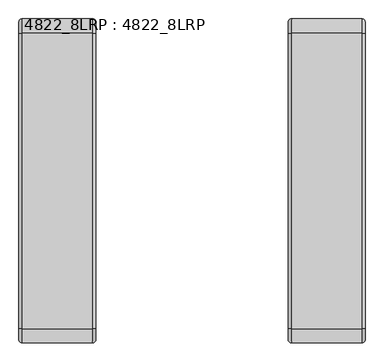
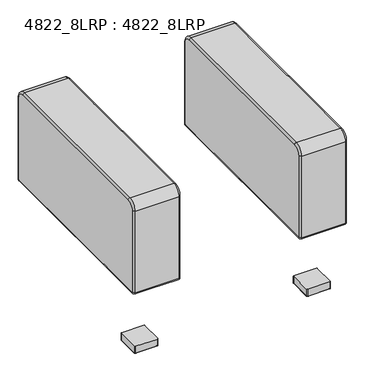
"""IFC4 building model written with IfcOpenShell, lengths in millimetres: furniture geometry, 4822_8LRP : 4822_8LRP."""

from ifc_helpers import new_model, si_unit, point, frame, frame_2d, origin, place, context, project, spatial, polyline, circle_curve, ellipse_curve, trimmed, segment, composite_curve, outline, extrude, source, transform, mapped, element, save
from ifc_brep_helpers import plane_surface, cylinder_surface, revolved_surface, advanced_brep


def furniture_4822_8lrp_4822_8lrp_ecd76cde(model_context):
    return source(origin(), model_context, "Body", "SolidModel", [
        advanced_brep(
        [(-254.0, -8.89, 698.8175), (-254.0, -38.1, 728.0275), (-254.0, -819.15, 728.0275), (-254.0, -848.36, 698.8175), (-254.0, -848.36, 330.4403326), (-254.0, -847.8021674, 329.8825), (-254.0, -9.4347305, 329.8825), (-254.0, -8.89, 330.4272305), (-457.2, -38.1, 728.0275), (-457.2, -8.89, 698.8175), (-457.2, -8.89, 330.4272305), (-457.2, -9.4347305, 329.8825), (-457.2, -847.8021674, 329.8825), (-457.2, -848.36, 330.4403326), (-457.2, -848.36, 698.8175), (-457.2, -819.15, 728.0275), (-448.31, -38.1, 736.9175), (-448.31, -819.15, 736.9175), (-262.89, -819.15, 736.9175), (-262.89, -38.1, 736.9175), (-448.31, -857.25, 698.8175), (-262.89, -857.25, 698.8175), (-448.31, -857.25, 330.4403326), (-262.89, -857.25, 330.4403326), (-448.31, -847.8021674, 320.9925), (-262.89, -847.8021674, 320.9925), (-448.31, -9.4347305, 320.9925), (-262.89, -9.4347305, 320.9925), (-400.05, -187.325, 320.9925), (-400.05, -161.925, 320.9925), (-400.05, -695.325, 320.9925), (-400.05, -669.925, 320.9925), (-448.31, 0.0, 330.4272305), (-262.89, 0.0, 330.4272305), (-448.31, 0.0, 698.8175), (-262.89, 0.0, 698.8175), (-400.05, -161.925, 333.6925), (-400.05, -187.325, 333.6925), (-400.05, -669.925, 333.6925), (-400.05, -695.325, 333.6925)],
        [
            (0, 1, circle_curve(frame((-254.0, -38.1, 698.8175), z_axis=(1.0, 0.0, 0.0), x_axis=(0.0, 0.0, 1.0)), 29.21)),
            (1, 2),
            (2, 3, circle_curve(frame((-254.0, -819.15, 698.8175), z_axis=(1.0, 0.0, 0.0), x_axis=(0.0, -1.0, 0.0)), 29.21)),
            (3, 4),
            (4, 5, circle_curve(frame((-254.0, -847.8021674, 330.4403326), z_axis=(1.0, 0.0, 0.0), x_axis=(0.0, 0.0, -1.0)), 0.5578326)),
            (5, 6),
            (6, 7, circle_curve(frame((-254.0, -9.4347305, 330.4272305), z_axis=(1.0, 0.0, 0.0), x_axis=(0.0, 1.0, 0.0)), 0.5447305)),
            (7, 0),
            (8, 9, circle_curve(frame((-457.2, -38.1, 698.8175), z_axis=(-1.0, 0.0, 0.0), x_axis=(0.0, 0.0, 1.0)), 29.21)),
            (9, 10),
            (10, 11, circle_curve(frame((-457.2, -9.4347305, 330.4272305), z_axis=(-1.0, 0.0, 0.0), x_axis=(0.0, 1.0, 0.0)), 0.5447305)),
            (11, 12),
            (12, 13, circle_curve(frame((-457.2, -847.8021674, 330.4403326), z_axis=(-1.0, 0.0, 0.0), x_axis=(0.0, 0.0, -1.0)), 0.5578326)),
            (13, 14),
            (14, 15, circle_curve(frame((-457.2, -819.15, 698.8175), z_axis=(-1.0, 0.0, 0.0), x_axis=(0.0, -1.0, 0.0)), 29.21)),
            (15, 8),
            (16, 17),
            (17, 18),
            (18, 19),
            (19, 16),
            (17, 20, circle_curve(frame((-448.31, -819.15, 698.8175), z_axis=(1.0, 0.0, 0.0), x_axis=(0.0, -1.0, 0.0)), 38.1)),
            (20, 21),
            (21, 18, circle_curve(frame((-262.89, -819.15, 698.8175), z_axis=(-1.0, 0.0, 0.0), x_axis=(0.0, -1.0, 0.0)), 38.1)),
            (20, 22),
            (22, 23),
            (23, 21),
            (22, 24, circle_curve(frame((-448.31, -847.8021674, 330.4403326), z_axis=(1.0, 0.0, 0.0), x_axis=(0.0, -1.0, 0.0)), 9.4478326)),
            (24, 25),
            (25, 23, circle_curve(frame((-262.89, -847.8021674, 330.4403326), z_axis=(-1.0, 0.0, 0.0), x_axis=(0.0, -1.0, 0.0)), 9.4478326)),
            (24, 26),
            (26, 27),
            (27, 25),
            (28, 29, circle_curve(frame((-400.05, -174.625, 320.9925), z_axis=(0.0, 0.0, 1.0), x_axis=(-1.0, 0.0, 0.0)), 12.7)),
            (29, 28),
            (30, 31, circle_curve(frame((-400.05, -682.625, 320.9925), z_axis=(0.0, 0.0, 1.0), x_axis=(-1.0, 0.0, 0.0)), 12.7)),
            (31, 30),
            (26, 32, circle_curve(frame((-448.31, -9.4347305, 330.4272305), z_axis=(1.0, 0.0, 0.0), x_axis=(0.0, -1.0, 0.0)), 9.4347305)),
            (32, 33),
            (33, 27, circle_curve(frame((-262.89, -9.4347305, 330.4272305), z_axis=(-1.0, 0.0, 0.0), x_axis=(0.0, -1.0, 0.0)), 9.4347305)),
            (32, 34),
            (34, 35),
            (35, 33),
            (34, 16, circle_curve(frame((-448.31, -38.1, 698.8175), z_axis=(1.0, 0.0, 0.0), x_axis=(0.0, -1.0, 0.0)), 38.1)),
            (19, 35, circle_curve(frame((-262.89, -38.1, 698.8175), z_axis=(-1.0, 0.0, 0.0), x_axis=(0.0, -1.0, 0.0)), 38.1)),
            (34, 9, circle_curve(frame((-448.31, -8.89, 698.8175), z_axis=(0.0, 0.0, 1.0), x_axis=(1.0, 0.0, 0.0)), 8.89)),
            (8, 16, circle_curve(frame((-448.31, -38.1, 728.0275), z_axis=(0.0, 1.0, 0.0), x_axis=(1.0, 0.0, 0.0)), 8.89)),
            (32, 10, circle_curve(frame((-448.31, -8.89, 330.4272305), z_axis=(0.0, 0.0, 1.0), x_axis=(1.0, 0.0, 0.0)), 8.89)),
            (26, 11, circle_curve(frame((-448.31, -9.4347305, 329.8825), z_axis=(0.0, 1.0, 0.0), x_axis=(1.0, 0.0, 0.0)), 8.89)),
            (24, 12, circle_curve(frame((-448.31, -847.8021674, 329.8825), z_axis=(0.0, 1.0, 0.0), x_axis=(1.0, 0.0, 0.0)), 8.89)),
            (22, 13, circle_curve(frame((-448.31, -848.36, 330.4403326), z_axis=(0.0, 0.0, -1.0), x_axis=(1.0, 0.0, 0.0)), 8.89)),
            (20, 14, circle_curve(frame((-448.31, -848.36, 698.8175), z_axis=(0.0, 0.0, -1.0), x_axis=(1.0, 0.0, 0.0)), 8.89)),
            (17, 15, circle_curve(frame((-448.31, -819.15, 728.0275), z_axis=(0.0, -1.0, 0.0), x_axis=(1.0, 0.0, 0.0)), 8.89)),
            (0, 35, circle_curve(frame((-262.89, -8.89, 698.8175), z_axis=(0.0, 0.0, 1.0), x_axis=(-1.0, 0.0, 0.0)), 8.89)),
            (19, 1, circle_curve(frame((-262.89, -38.1, 728.0275), z_axis=(0.0, 1.0, 0.0), x_axis=(-1.0, 0.0, 0.0)), 8.89)),
            (7, 33, circle_curve(frame((-262.89, -8.89, 330.4272305), z_axis=(0.0, 0.0, 1.0), x_axis=(-1.0, 0.0, 0.0)), 8.89)),
            (6, 27, circle_curve(frame((-262.89, -9.4347305, 329.8825), z_axis=(0.0, 1.0, 0.0), x_axis=(-1.0, 0.0, 0.0)), 8.89)),
            (5, 25, circle_curve(frame((-262.89, -847.8021674, 329.8825), z_axis=(0.0, 1.0, 0.0), x_axis=(-1.0, 0.0, 0.0)), 8.89)),
            (4, 23, circle_curve(frame((-262.89, -848.36, 330.4403326), z_axis=(0.0, 0.0, -1.0), x_axis=(-1.0, 0.0, 0.0)), 8.89)),
            (3, 21, circle_curve(frame((-262.89, -848.36, 698.8175), z_axis=(0.0, 0.0, -1.0), x_axis=(-1.0, 0.0, 0.0)), 8.89)),
            (2, 18, circle_curve(frame((-262.89, -819.15, 728.0275), z_axis=(0.0, -1.0, 0.0), x_axis=(-1.0, 0.0, 0.0)), 8.89)),
            (36, 37, circle_curve(frame((-400.05, -174.625, 333.6925), z_axis=(0.0, 0.0, -1.0), x_axis=(-1.0, 0.0, 0.0)), 12.7)),
            (37, 36),
            (38, 39, circle_curve(frame((-400.05, -682.625, 333.6925), z_axis=(0.0, 0.0, -1.0), x_axis=(-1.0, 0.0, 0.0)), 12.7)),
            (39, 38),
            (36, 29),
            (28, 37),
            (38, 31),
            (30, 39),
        ],
        [
            plane_surface(frame((-254.0, -819.15, 736.9175), z_axis=(1.0, 0.0, 0.0), x_axis=(0.0, -1.0, 0.0))),
            plane_surface(frame((-457.2, -819.15, 736.9175), z_axis=(-1.0, 0.0, 0.0), x_axis=(0.0, 1.0, 0.0))),
            plane_surface(frame((-254.0, -38.1, 736.9175), z_axis=(0.0, 0.0, 1.0), x_axis=(-1.0, 0.0, 0.0))),
            cylinder_surface(frame((-457.2, -819.15, 698.8175), z_axis=(1.0, 0.0, 0.0), x_axis=(0.0, -1.0, 0.0)), 38.1),
            plane_surface(frame((-254.0, -857.25, 698.8175), z_axis=(0.0, -1.0, 0.0), x_axis=(-1.0, 0.0, 0.0))),
            cylinder_surface(frame((-457.2, -847.8021674, 330.4403326), z_axis=(1.0, 0.0, 0.0), x_axis=(0.0, -1.0, 0.0)), 9.4478326),
            plane_surface(frame((-254.0, -847.8021674, 320.9925), z_axis=(0.0, 0.0, -1.0), x_axis=(-1.0, 0.0, 0.0))),
            cylinder_surface(frame((-457.2, -9.4347305, 330.4272305), z_axis=(1.0, 0.0, 0.0), x_axis=(0.0, -1.0, 0.0)), 9.4347305),
            plane_surface(frame((-254.0, 0.0, 330.4272305), z_axis=(0.0, 1.0, 0.0), x_axis=(-1.0, 0.0, 0.0))),
            cylinder_surface(frame((-457.2, -38.1, 698.8175), z_axis=(1.0, 0.0, 0.0), x_axis=(0.0, -1.0, 0.0)), 38.1),
            revolved_surface(trimmed(ellipse_curve(frame((-448.31, -38.1, 728.0275), z_axis=(0.0, -1.0, 0.0), x_axis=(1.0, 0.0, 0.0)), 8.89, 8.89), [point((-448.31, -38.1, 736.9175))], [point((-457.2, -38.1, 728.0275))], True, "CARTESIAN"), (-457.2, -38.1, 698.8175), (-1.0, 0.0, 0.0)),
            cylinder_surface(frame((-448.31, -8.89, 698.8175), z_axis=(0.0, 0.0, -1.0), x_axis=(1.0, 0.0, 0.0)), 8.89),
            revolved_surface(trimmed(ellipse_curve(frame((-448.31, -8.89, 330.4272305), z_axis=(0.0, 0.0, 1.0), x_axis=(1.0, 0.0, 0.0)), 8.89, 8.89), [point((-448.31, 0.0, 330.4272305))], [point((-457.2, -8.89, 330.4272305))], True, "CARTESIAN"), (-457.2, -9.4347305, 330.4272305), (-1.0, 0.0, 0.0)),
            cylinder_surface(frame((-448.31, -9.4347305, 329.8825), z_axis=(0.0, -1.0, 0.0), x_axis=(1.0, 0.0, 0.0)), 8.89),
            revolved_surface(trimmed(ellipse_curve(frame((-448.31, -847.8021674, 329.8825), z_axis=(0.0, 1.0, 0.0), x_axis=(1.0, 0.0, 0.0)), 8.89, 8.89), [point((-448.31, -847.8021674, 320.9925))], [point((-457.2, -847.8021674, 329.8825))], True, "CARTESIAN"), (-457.2, -847.8021674, 330.4403326), (-1.0, 0.0, 0.0)),
            cylinder_surface(frame((-448.31, -848.36, 330.4403326), z_axis=(0.0, 0.0, 1.0), x_axis=(1.0, 0.0, 0.0)), 8.89),
            revolved_surface(trimmed(ellipse_curve(frame((-448.31, -848.36, 698.8175), z_axis=(0.0, 0.0, -1.0), x_axis=(1.0, 0.0, 0.0)), 8.89, 8.89), [point((-448.31, -857.25, 698.8175))], [point((-457.2, -848.36, 698.8175))], True, "CARTESIAN"), (-457.2, -819.15, 698.8175), (-1.0, 0.0, 0.0)),
            cylinder_surface(frame((-448.31, -819.15, 728.0275), z_axis=(0.0, 1.0, 0.0), x_axis=(1.0, 0.0, 0.0)), 8.89),
            revolved_surface(trimmed(ellipse_curve(frame((-262.89, -38.1, 728.0275), z_axis=(0.0, -1.0, 0.0), x_axis=(-1.0, 0.0, 0.0)), 8.89, 8.89), [point((-254.0, -38.1, 728.0275))], [point((-262.89, -38.1, 736.9175))], True, "CARTESIAN"), (-254.0, -38.1, 698.8175), (-1.0, 0.0, 0.0)),
            cylinder_surface(frame((-262.89, -8.89, 698.8175), z_axis=(0.0, 0.0, -1.0), x_axis=(-1.0, 0.0, 0.0)), 8.89),
            revolved_surface(trimmed(ellipse_curve(frame((-262.89, -8.89, 330.4272305), z_axis=(0.0, 0.0, 1.0), x_axis=(-1.0, 0.0, 0.0)), 8.89, 8.89), [point((-254.0, -8.89, 330.4272305))], [point((-262.89, 0.0, 330.4272305))], True, "CARTESIAN"), (-254.0, -9.4347305, 330.4272305), (-1.0, 0.0, 0.0)),
            cylinder_surface(frame((-262.89, -9.4347305, 329.8825), z_axis=(0.0, -1.0, 0.0), x_axis=(-1.0, 0.0, 0.0)), 8.89),
            revolved_surface(trimmed(ellipse_curve(frame((-262.89, -847.8021674, 329.8825), z_axis=(0.0, 1.0, 0.0), x_axis=(-1.0, 0.0, 0.0)), 8.89, 8.89), [point((-254.0, -847.8021674, 329.8825))], [point((-262.89, -847.8021674, 320.9925))], True, "CARTESIAN"), (-254.0, -847.8021674, 330.4403326), (-1.0, 0.0, 0.0)),
            cylinder_surface(frame((-262.89, -848.36, 330.4403326), z_axis=(0.0, 0.0, 1.0), x_axis=(-1.0, 0.0, 0.0)), 8.89),
            revolved_surface(trimmed(ellipse_curve(frame((-262.89, -848.36, 698.8175), z_axis=(0.0, 0.0, -1.0), x_axis=(-1.0, 0.0, 0.0)), 8.89, 8.89), [point((-254.0, -848.36, 698.8175))], [point((-262.89, -857.25, 698.8175))], True, "CARTESIAN"), (-254.0, -819.15, 698.8175), (-1.0, 0.0, 0.0)),
            cylinder_surface(frame((-262.89, -819.15, 728.0275), z_axis=(0.0, 1.0, 0.0), x_axis=(-1.0, 0.0, 0.0)), 8.89),
            plane_surface(frame((-400.05, -187.325, 333.6925), z_axis=(0.0, 0.0, -1.0), x_axis=(0.0, -1.0, 0.0))),
            revolved_surface(polyline([(-412.75, -174.625, 333.6925), (-412.75, -174.625, 320.9925)]), (-400.05, -174.625, 320.9925), (0.0, 0.0, 1.0)),
            plane_surface(frame((-400.05, -161.925, 333.6925), z_axis=(1.0, 0.0, 0.0), x_axis=(0.0, 0.0, -1.0))),
            revolved_surface(polyline([(-412.75, -682.625, 333.6925), (-412.75, -682.625, 320.9925)]), (-400.05, -682.625, 9.8425), (0.0, 0.0, 1.0)),
            plane_surface(frame((-400.05, -669.925, 333.6925), z_axis=(1.0, 0.0, 0.0), x_axis=(0.0, 0.0, -1.0))),
        ],
        [
            (0, [[1, 2, 3, 4, 5, 6, 7, 8]]),
            (1, [[9, 10, 11, 12, 13, 14, 15, 16]]),
            (2, [[17, 18, 19, 20]]),
            (3, [[21, 22, 23, -18]]),
            (4, [[24, 25, 26, -22]]),
            (5, [[27, 28, 29, -25]]),
            (6, [[30, 31, 32, -28], [33, 34], [35, 36]]),
            (7, [[37, 38, 39, -31]]),
            (8, [[40, 41, 42, -38]]),
            (9, [[43, -20, 44, -41]]),
            (10, [[45, -9, 46, -43]]),
            (11, [[-45, -40, 47, -10]]),
            (12, [[-47, -37, 48, -11]]),
            (13, [[-48, -30, 49, -12]]),
            (14, [[-49, -27, 50, -13]]),
            (15, [[-50, -24, 51, -14]]),
            (16, [[-51, -21, 52, -15]]),
            (17, [[-46, -16, -52, -17]]),
            (18, [[53, -44, 54, -1]]),
            (19, [[-53, -8, 55, -42]]),
            (20, [[-55, -7, 56, -39]]),
            (21, [[-56, -6, 57, -32]]),
            (22, [[-57, -5, 58, -29]]),
            (23, [[-58, -4, 59, -26]]),
            (24, [[-59, -3, 60, -23]]),
            (25, [[-54, -19, -60, -2]]),
            (26, [[61, 62]]),
            (26, [[63, 64]]),
            (27, [[-61, 65, -33, 66]]),
            (28, [[-62, -66, -34, -65]]),
            (29, [[-63, 67, -35, 68]]),
            (30, [[-64, -68, -36, -67]]),
        ],
    ),
        advanced_brep(
        [(457.2, -8.89, 698.8175), (457.2, -38.1, 728.0275), (457.2, -819.15, 728.0275), (457.2, -848.36, 698.8175), (457.2, -848.36, 330.4403326), (457.2, -847.8021674, 329.8825), (457.2, -9.4347305, 329.8825), (457.2, -8.89, 330.4272305), (254.0, -38.1, 728.0275), (254.0, -8.89, 698.8175), (254.0, -8.89, 330.4272305), (254.0, -9.4347305, 329.8825), (254.0, -847.8021674, 329.8825), (254.0, -848.36, 330.4403326), (254.0, -848.36, 698.8175), (254.0, -819.15, 728.0275), (262.89, -38.1, 736.9175), (262.89, -819.15, 736.9175), (448.31, -819.15, 736.9175), (448.31, -38.1, 736.9175), (262.89, -857.25, 698.8175), (448.31, -857.25, 698.8175), (262.89, -857.25, 330.4403326), (448.31, -857.25, 330.4403326), (262.89, -847.8021674, 320.9925), (448.31, -847.8021674, 320.9925), (262.89, -9.4347305, 320.9925), (448.31, -9.4347305, 320.9925), (400.05, -161.925, 320.9925), (400.05, -187.325, 320.9925), (400.05, -669.925, 320.9925), (400.05, -695.325, 320.9925), (262.89, 0.0, 330.4272305), (448.31, 0.0, 330.4272305), (262.89, 0.0, 698.8175), (448.31, 0.0, 698.8175), (400.05, -161.925, 333.6925), (400.05, -187.325, 333.6925), (400.05, -669.925, 333.6925), (400.05, -695.325, 333.6925)],
        [
            (0, 1, circle_curve(frame((457.2, -38.1, 698.8175), z_axis=(1.0, 0.0, 0.0), x_axis=(0.0, 0.0, 1.0)), 29.21)),
            (1, 2),
            (2, 3, circle_curve(frame((457.2, -819.15, 698.8175), z_axis=(1.0, 0.0, 0.0), x_axis=(0.0, -1.0, 0.0)), 29.21)),
            (3, 4),
            (4, 5, circle_curve(frame((457.2, -847.8021674, 330.4403326), z_axis=(1.0, 0.0, 0.0), x_axis=(0.0, 0.0, -1.0)), 0.5578326)),
            (5, 6),
            (6, 7, circle_curve(frame((457.2, -9.4347305, 330.4272305), z_axis=(1.0, 0.0, 0.0), x_axis=(0.0, 1.0, 0.0)), 0.5447305)),
            (7, 0),
            (8, 9, circle_curve(frame((254.0, -38.1, 698.8175), z_axis=(-1.0, 0.0, 0.0), x_axis=(0.0, 0.0, 1.0)), 29.21)),
            (9, 10),
            (10, 11, circle_curve(frame((254.0, -9.4347305, 330.4272305), z_axis=(-1.0, 0.0, 0.0), x_axis=(0.0, 1.0, 0.0)), 0.5447305)),
            (11, 12),
            (12, 13, circle_curve(frame((254.0, -847.8021674, 330.4403326), z_axis=(-1.0, 0.0, 0.0), x_axis=(0.0, 0.0, -1.0)), 0.5578326)),
            (13, 14),
            (14, 15, circle_curve(frame((254.0, -819.15, 698.8175), z_axis=(-1.0, 0.0, 0.0), x_axis=(0.0, -1.0, 0.0)), 29.21)),
            (15, 8),
            (16, 17),
            (17, 18),
            (18, 19),
            (19, 16),
            (17, 20, circle_curve(frame((262.89, -819.15, 698.8175), z_axis=(1.0, 0.0, 0.0), x_axis=(0.0, -1.0, 0.0)), 38.1)),
            (20, 21),
            (21, 18, circle_curve(frame((448.31, -819.15, 698.8175), z_axis=(-1.0, 0.0, 0.0), x_axis=(0.0, -1.0, 0.0)), 38.1)),
            (20, 22),
            (22, 23),
            (23, 21),
            (22, 24, circle_curve(frame((262.89, -847.8021674, 330.4403326), z_axis=(1.0, 0.0, 0.0), x_axis=(0.0, -1.0, 0.0)), 9.4478326)),
            (24, 25),
            (25, 23, circle_curve(frame((448.31, -847.8021674, 330.4403326), z_axis=(-1.0, 0.0, 0.0), x_axis=(0.0, -1.0, 0.0)), 9.4478326)),
            (24, 26),
            (26, 27),
            (27, 25),
            (28, 29, circle_curve(frame((400.05, -174.625, 320.9925), z_axis=(0.0, 0.0, 1.0), x_axis=(1.0, 0.0, 0.0)), 12.7)),
            (29, 28),
            (30, 31, circle_curve(frame((400.05, -682.625, 320.9925), z_axis=(0.0, 0.0, 1.0), x_axis=(1.0, 0.0, 0.0)), 12.7)),
            (31, 30),
            (26, 32, circle_curve(frame((262.89, -9.4347305, 330.4272305), z_axis=(1.0, 0.0, 0.0), x_axis=(0.0, -1.0, 0.0)), 9.4347305)),
            (32, 33),
            (33, 27, circle_curve(frame((448.31, -9.4347305, 330.4272305), z_axis=(-1.0, 0.0, 0.0), x_axis=(0.0, -1.0, 0.0)), 9.4347305)),
            (32, 34),
            (34, 35),
            (35, 33),
            (34, 16, circle_curve(frame((262.89, -38.1, 698.8175), z_axis=(1.0, 0.0, 0.0), x_axis=(0.0, -1.0, 0.0)), 38.1)),
            (19, 35, circle_curve(frame((448.31, -38.1, 698.8175), z_axis=(-1.0, 0.0, 0.0), x_axis=(0.0, -1.0, 0.0)), 38.1)),
            (34, 9, circle_curve(frame((262.89, -8.89, 698.8175), z_axis=(0.0, 0.0, 1.0), x_axis=(1.0, 0.0, 0.0)), 8.89)),
            (8, 16, circle_curve(frame((262.89, -38.1, 728.0275), z_axis=(0.0, 1.0, 0.0), x_axis=(1.0, 0.0, 0.0)), 8.89)),
            (32, 10, circle_curve(frame((262.89, -8.89, 330.4272305), z_axis=(0.0, 0.0, 1.0), x_axis=(1.0, 0.0, 0.0)), 8.89)),
            (26, 11, circle_curve(frame((262.89, -9.4347305, 329.8825), z_axis=(0.0, 1.0, 0.0), x_axis=(1.0, 0.0, 0.0)), 8.89)),
            (24, 12, circle_curve(frame((262.89, -847.8021674, 329.8825), z_axis=(0.0, 1.0, 0.0), x_axis=(1.0, 0.0, 0.0)), 8.89)),
            (22, 13, circle_curve(frame((262.89, -848.36, 330.4403326), z_axis=(0.0, 0.0, -1.0), x_axis=(1.0, 0.0, 0.0)), 8.89)),
            (20, 14, circle_curve(frame((262.89, -848.36, 698.8175), z_axis=(0.0, 0.0, -1.0), x_axis=(1.0, 0.0, 0.0)), 8.89)),
            (17, 15, circle_curve(frame((262.89, -819.15, 728.0275), z_axis=(0.0, -1.0, 0.0), x_axis=(1.0, 0.0, 0.0)), 8.89)),
            (0, 35, circle_curve(frame((448.31, -8.89, 698.8175), z_axis=(0.0, 0.0, 1.0), x_axis=(-1.0, 0.0, 0.0)), 8.89)),
            (19, 1, circle_curve(frame((448.31, -38.1, 728.0275), z_axis=(0.0, 1.0, 0.0), x_axis=(-1.0, 0.0, 0.0)), 8.89)),
            (7, 33, circle_curve(frame((448.31, -8.89, 330.4272305), z_axis=(0.0, 0.0, 1.0), x_axis=(-1.0, 0.0, 0.0)), 8.89)),
            (6, 27, circle_curve(frame((448.31, -9.4347305, 329.8825), z_axis=(0.0, 1.0, 0.0), x_axis=(-1.0, 0.0, 0.0)), 8.89)),
            (5, 25, circle_curve(frame((448.31, -847.8021674, 329.8825), z_axis=(0.0, 1.0, 0.0), x_axis=(-1.0, 0.0, 0.0)), 8.89)),
            (4, 23, circle_curve(frame((448.31, -848.36, 330.4403326), z_axis=(0.0, 0.0, -1.0), x_axis=(-1.0, 0.0, 0.0)), 8.89)),
            (3, 21, circle_curve(frame((448.31, -848.36, 698.8175), z_axis=(0.0, 0.0, -1.0), x_axis=(-1.0, 0.0, 0.0)), 8.89)),
            (2, 18, circle_curve(frame((448.31, -819.15, 728.0275), z_axis=(0.0, -1.0, 0.0), x_axis=(-1.0, 0.0, 0.0)), 8.89)),
            (36, 37),
            (37, 36, circle_curve(frame((400.05, -174.625, 333.6925), z_axis=(0.0, 0.0, -1.0), x_axis=(1.0, 0.0, 0.0)), 12.7)),
            (38, 39),
            (39, 38, circle_curve(frame((400.05, -682.625, 333.6925), z_axis=(0.0, 0.0, -1.0), x_axis=(1.0, 0.0, 0.0)), 12.7)),
            (37, 29),
            (28, 36),
            (39, 31),
            (30, 38),
        ],
        [
            plane_surface(frame((457.2, -819.15, 736.9175), z_axis=(1.0, 0.0, 0.0), x_axis=(0.0, -1.0, 0.0))),
            plane_surface(frame((254.0, -819.15, 736.9175), z_axis=(-1.0, 0.0, 0.0), x_axis=(0.0, 1.0, 0.0))),
            plane_surface(frame((457.2, -38.1, 736.9175), z_axis=(0.0, 0.0, 1.0), x_axis=(-1.0, 0.0, 0.0))),
            cylinder_surface(frame((254.0, -819.15, 698.8175), z_axis=(1.0, 0.0, 0.0), x_axis=(0.0, -1.0, 0.0)), 38.1),
            plane_surface(frame((457.2, -857.25, 698.8175), z_axis=(0.0, -1.0, 0.0), x_axis=(-1.0, 0.0, 0.0))),
            cylinder_surface(frame((254.0, -847.8021674, 330.4403326), z_axis=(1.0, 0.0, 0.0), x_axis=(0.0, -1.0, 0.0)), 9.4478326),
            plane_surface(frame((457.2, -847.8021674, 320.9925), z_axis=(0.0, 0.0, -1.0), x_axis=(-1.0, 0.0, 0.0))),
            cylinder_surface(frame((254.0, -9.4347305, 330.4272305), z_axis=(1.0, 0.0, 0.0), x_axis=(0.0, -1.0, 0.0)), 9.4347305),
            plane_surface(frame((457.2, 0.0, 330.4272305), z_axis=(0.0, 1.0, 0.0), x_axis=(-1.0, 0.0, 0.0))),
            cylinder_surface(frame((254.0, -38.1, 698.8175), z_axis=(1.0, 0.0, 0.0), x_axis=(0.0, -1.0, 0.0)), 38.1),
            revolved_surface(trimmed(ellipse_curve(frame((262.89, -38.1, 728.0275), z_axis=(0.0, -1.0, 0.0), x_axis=(1.0, 0.0, 0.0)), 8.89, 8.89), [point((262.89, -38.1, 736.9175))], [point((254.0, -38.1, 728.0275))], True, "CARTESIAN"), (254.0, -38.1, 698.8175), (-1.0, 0.0, 0.0)),
            cylinder_surface(frame((262.89, -8.89, 698.8175), z_axis=(0.0, 0.0, -1.0), x_axis=(1.0, 0.0, 0.0)), 8.89),
            revolved_surface(trimmed(ellipse_curve(frame((262.89, -8.89, 330.4272305), z_axis=(0.0, 0.0, 1.0), x_axis=(1.0, 0.0, 0.0)), 8.89, 8.89), [point((262.89, 0.0, 330.4272305))], [point((254.0, -8.89, 330.4272305))], True, "CARTESIAN"), (254.0, -9.4347305, 330.4272305), (-1.0, 0.0, 0.0)),
            cylinder_surface(frame((262.89, -9.4347305, 329.8825), z_axis=(0.0, -1.0, 0.0), x_axis=(1.0, 0.0, 0.0)), 8.89),
            revolved_surface(trimmed(ellipse_curve(frame((262.89, -847.8021674, 329.8825), z_axis=(0.0, 1.0, 0.0), x_axis=(1.0, 0.0, 0.0)), 8.89, 8.89), [point((262.89, -847.8021674, 320.9925))], [point((254.0, -847.8021674, 329.8825))], True, "CARTESIAN"), (254.0, -847.8021674, 330.4403326), (-1.0, 0.0, 0.0)),
            cylinder_surface(frame((262.89, -848.36, 330.4403326), z_axis=(0.0, 0.0, 1.0), x_axis=(1.0, 0.0, 0.0)), 8.89),
            revolved_surface(trimmed(ellipse_curve(frame((262.89, -848.36, 698.8175), z_axis=(0.0, 0.0, -1.0), x_axis=(1.0, 0.0, 0.0)), 8.89, 8.89), [point((262.89, -857.25, 698.8175))], [point((254.0, -848.36, 698.8175))], True, "CARTESIAN"), (254.0, -819.15, 698.8175), (-1.0, 0.0, 0.0)),
            cylinder_surface(frame((262.89, -819.15, 728.0275), z_axis=(0.0, 1.0, 0.0), x_axis=(1.0, 0.0, 0.0)), 8.89),
            revolved_surface(trimmed(ellipse_curve(frame((448.31, -38.1, 728.0275), z_axis=(0.0, -1.0, 0.0), x_axis=(-1.0, 0.0, 0.0)), 8.89, 8.89), [point((457.2, -38.1, 728.0275))], [point((448.31, -38.1, 736.9175))], True, "CARTESIAN"), (457.2, -38.1, 698.8175), (-1.0, 0.0, 0.0)),
            cylinder_surface(frame((448.31, -8.89, 698.8175), z_axis=(0.0, 0.0, -1.0), x_axis=(-1.0, 0.0, 0.0)), 8.89),
            revolved_surface(trimmed(ellipse_curve(frame((448.31, -8.89, 330.4272305), z_axis=(0.0, 0.0, 1.0), x_axis=(-1.0, 0.0, 0.0)), 8.89, 8.89), [point((457.2, -8.89, 330.4272305))], [point((448.31, 0.0, 330.4272305))], True, "CARTESIAN"), (457.2, -9.4347305, 330.4272305), (-1.0, 0.0, 0.0)),
            cylinder_surface(frame((448.31, -9.4347305, 329.8825), z_axis=(0.0, -1.0, 0.0), x_axis=(-1.0, 0.0, 0.0)), 8.89),
            revolved_surface(trimmed(ellipse_curve(frame((448.31, -847.8021674, 329.8825), z_axis=(0.0, 1.0, 0.0), x_axis=(-1.0, 0.0, 0.0)), 8.89, 8.89), [point((457.2, -847.8021674, 329.8825))], [point((448.31, -847.8021674, 320.9925))], True, "CARTESIAN"), (457.2, -847.8021674, 330.4403326), (-1.0, 0.0, 0.0)),
            cylinder_surface(frame((448.31, -848.36, 330.4403326), z_axis=(0.0, 0.0, 1.0), x_axis=(-1.0, 0.0, 0.0)), 8.89),
            revolved_surface(trimmed(ellipse_curve(frame((448.31, -848.36, 698.8175), z_axis=(0.0, 0.0, -1.0), x_axis=(-1.0, 0.0, 0.0)), 8.89, 8.89), [point((457.2, -848.36, 698.8175))], [point((448.31, -857.25, 698.8175))], True, "CARTESIAN"), (457.2, -819.15, 698.8175), (-1.0, 0.0, 0.0)),
            cylinder_surface(frame((448.31, -819.15, 728.0275), z_axis=(0.0, 1.0, 0.0), x_axis=(-1.0, 0.0, 0.0)), 8.89),
            plane_surface(frame((412.75, -174.625, 333.6925), z_axis=(0.0, 0.0, -1.0), x_axis=(0.0, 1.0, 0.0))),
            revolved_surface(polyline([(412.75, -174.625, 333.6925), (412.75, -174.625, 320.9925)]), (400.05, -174.625, 320.9925), (0.0, 0.0, 1.0)),
            plane_surface(frame((400.05, -187.325, 333.6925), z_axis=(-1.0, 0.0, 0.0), x_axis=(0.0, 0.0, -1.0))),
            revolved_surface(polyline([(412.75, -682.625, 333.6925), (412.75, -682.625, 320.9925)]), (400.05, -682.625, 9.8425), (0.0, 0.0, 1.0)),
            plane_surface(frame((400.05, -695.325, 333.6925), z_axis=(-1.0, 0.0, 0.0), x_axis=(0.0, 0.0, -1.0))),
        ],
        [
            (0, [[1, 2, 3, 4, 5, 6, 7, 8]]),
            (1, [[9, 10, 11, 12, 13, 14, 15, 16]]),
            (2, [[17, 18, 19, 20]]),
            (3, [[21, 22, 23, -18]]),
            (4, [[24, 25, 26, -22]]),
            (5, [[27, 28, 29, -25]]),
            (6, [[30, 31, 32, -28], [33, 34], [35, 36]]),
            (7, [[37, 38, 39, -31]]),
            (8, [[40, 41, 42, -38]]),
            (9, [[43, -20, 44, -41]]),
            (10, [[45, -9, 46, -43]]),
            (11, [[-45, -40, 47, -10]]),
            (12, [[-47, -37, 48, -11]]),
            (13, [[-48, -30, 49, -12]]),
            (14, [[-49, -27, 50, -13]]),
            (15, [[-50, -24, 51, -14]]),
            (16, [[-51, -21, 52, -15]]),
            (17, [[-46, -16, -52, -17]]),
            (18, [[53, -44, 54, -1]]),
            (19, [[-53, -8, 55, -42]]),
            (20, [[-55, -7, 56, -39]]),
            (21, [[-56, -6, 57, -32]]),
            (22, [[-57, -5, 58, -29]]),
            (23, [[-58, -4, 59, -26]]),
            (24, [[-59, -3, 60, -23]]),
            (25, [[-54, -19, -60, -2]]),
            (26, [[61, 62]]),
            (26, [[63, 64]]),
            (27, [[-62, 65, -33, 66]]),
            (28, [[-61, -66, -34, -65]]),
            (29, [[-64, 67, -35, 68]]),
            (30, [[-63, -68, -36, -67]]),
        ],
    ),
        advanced_brep(
        [(-320.675, -698.5, 41.5925), (-415.925, -698.5, 41.5925), (-419.1, -701.675, 41.5925), (-419.1, -796.925, 41.5925), (-415.925, -800.1, 41.5925), (-320.675, -800.1, 41.5925), (-317.5, -796.925, 41.5925), (-317.5, -701.675, 41.5925), (-417.83, -701.675, 11.1125), (-415.925, -699.77, 11.1125), (-320.675, -699.77, 11.1125), (-318.77, -701.675, 11.1125), (-318.77, -796.925, 11.1125), (-320.675, -798.83, 11.1125), (-415.925, -798.83, 11.1125), (-417.83, -796.925, 11.1125), (-320.675, -698.5, 11.1125), (-415.925, -698.5, 11.1125), (-419.1, -701.675, 11.1125), (-419.1, -796.925, 11.1125), (-415.925, -800.1, 11.1125), (-320.675, -800.1, 11.1125), (-317.5, -796.925, 11.1125), (-317.5, -701.675, 11.1125), (-415.925, -699.77, 9.8425), (-417.83, -701.675, 9.8425), (-320.675, -699.77, 9.8425), (-318.77, -701.675, 9.8425), (-318.77, -796.925, 9.8425), (-320.675, -798.83, 9.8425), (-415.925, -798.83, 9.8425), (-417.83, -796.925, 9.8425)],
        [
            (0, 1),
            (1, 2, circle_curve(frame((-415.925, -701.675, 41.5925), z_axis=(0.0, 0.0, 1.0), x_axis=(1.0, 0.0, 0.0)), 3.175)),
            (2, 3),
            (3, 4, circle_curve(frame((-415.925, -796.925, 41.5925), z_axis=(0.0, 0.0, 1.0), x_axis=(1.0, 0.0, 0.0)), 3.175)),
            (4, 5),
            (5, 6, circle_curve(frame((-320.675, -796.925, 41.5925), z_axis=(0.0, 0.0, 1.0), x_axis=(1.0, 0.0, 0.0)), 3.175)),
            (6, 7),
            (7, 0, circle_curve(frame((-320.675, -701.675, 41.5925), z_axis=(0.0, 0.0, 1.0), x_axis=(1.0, 0.0, 0.0)), 3.175)),
            (8, 9, circle_curve(frame((-415.925, -701.675, 11.1125), z_axis=(0.0, 0.0, -1.0), x_axis=(-1.0, 0.0, 0.0)), 1.905)),
            (9, 10),
            (10, 11, circle_curve(frame((-320.675, -701.675, 11.1125), z_axis=(0.0, 0.0, -1.0), x_axis=(0.0, 1.0, 0.0)), 1.905)),
            (11, 12),
            (12, 13, circle_curve(frame((-320.675, -796.925, 11.1125), z_axis=(0.0, 0.0, -1.0), x_axis=(1.0, 0.0, 0.0)), 1.905)),
            (13, 14),
            (14, 15, circle_curve(frame((-415.925, -796.925, 11.1125), z_axis=(0.0, 0.0, -1.0), x_axis=(0.0, -1.0, 0.0)), 1.905)),
            (15, 8),
            (0, 16),
            (16, 17),
            (17, 1),
            (17, 18, circle_curve(frame((-415.925, -701.675, 11.1125), z_axis=(0.0, 0.0, 1.0), x_axis=(1.0, 0.0, 0.0)), 3.175)),
            (18, 2),
            (18, 19),
            (19, 3),
            (19, 20, circle_curve(frame((-415.925, -796.925, 11.1125), z_axis=(0.0, 0.0, 1.0), x_axis=(1.0, 0.0, 0.0)), 3.175)),
            (20, 4),
            (20, 21),
            (21, 5),
            (21, 22, circle_curve(frame((-320.675, -796.925, 11.1125), z_axis=(0.0, 0.0, 1.0), x_axis=(1.0, 0.0, 0.0)), 3.175)),
            (22, 6),
            (22, 23),
            (23, 7),
            (23, 16, circle_curve(frame((-320.675, -701.675, 11.1125), z_axis=(0.0, 0.0, 1.0), x_axis=(1.0, 0.0, 0.0)), 3.175)),
            (24, 25, circle_curve(frame((-415.925, -701.675, 9.8425), z_axis=(0.0, 0.0, 1.0), x_axis=(-1.0, 0.0, 0.0)), 1.905)),
            (25, 18, circle_curve(frame((-417.83, -701.675, 11.1125), z_axis=(0.0, 1.0, 0.0), x_axis=(1.0, 0.0, 0.0)), 1.27)),
            (17, 24, circle_curve(frame((-415.925, -699.77, 11.1125), z_axis=(-1.0, 0.0, 0.0), x_axis=(0.0, -1.0, 0.0)), 1.27)),
            (16, 26, circle_curve(frame((-320.675, -699.77, 11.1125), z_axis=(-1.0, 0.0, 0.0), x_axis=(0.0, -1.0, 0.0)), 1.27)),
            (26, 24),
            (23, 27, circle_curve(frame((-318.77, -701.675, 11.1125), z_axis=(0.0, 1.0, 0.0), x_axis=(-1.0, 0.0, 0.0)), 1.27)),
            (27, 26, circle_curve(frame((-320.675, -701.675, 9.8425), z_axis=(0.0, 0.0, 1.0), x_axis=(0.0, 1.0, 0.0)), 1.905)),
            (22, 28, circle_curve(frame((-318.77, -796.925, 11.1125), z_axis=(0.0, 1.0, 0.0), x_axis=(-1.0, 0.0, 0.0)), 1.27)),
            (28, 27),
            (21, 29, circle_curve(frame((-320.675, -798.83, 11.1125), z_axis=(1.0, 0.0, 0.0), x_axis=(0.0, 1.0, 0.0)), 1.27)),
            (29, 28, circle_curve(frame((-320.675, -796.925, 9.8425), z_axis=(0.0, 0.0, 1.0), x_axis=(1.0, 0.0, 0.0)), 1.905)),
            (20, 30, circle_curve(frame((-415.925, -798.83, 11.1125), z_axis=(1.0, 0.0, 0.0), x_axis=(0.0, 1.0, 0.0)), 1.27)),
            (30, 29),
            (19, 31, circle_curve(frame((-417.83, -796.925, 11.1125), z_axis=(0.0, -1.0, 0.0), x_axis=(1.0, 0.0, 0.0)), 1.27)),
            (31, 30, circle_curve(frame((-415.925, -796.925, 9.8425), z_axis=(0.0, 0.0, 1.0), x_axis=(0.0, -1.0, 0.0)), 1.905)),
            (25, 31),
            (24, 9),
            (8, 25),
            (26, 10),
            (27, 11),
            (28, 12),
            (29, 13),
            (30, 14),
            (31, 15),
        ],
        [
            plane_surface(frame((-415.925, -698.5, 41.5925), z_axis=(0.0, 0.0, 1.0), x_axis=(-1.0, 0.0, 0.0))),
            plane_surface(frame((-415.925, -698.5, 11.1125), z_axis=(0.0, 0.0, -1.0), x_axis=(1.0, 0.0, 0.0))),
            plane_surface(frame((-320.675, -698.5, 41.5925), z_axis=(0.0, 1.0, 0.0), x_axis=(0.0, 0.0, -1.0))),
            cylinder_surface(frame((-415.925, -701.675, 11.1125), z_axis=(0.0, 0.0, 1.0), x_axis=(1.0, 0.0, 0.0)), 3.175),
            plane_surface(frame((-419.1, -701.675, 41.5925), z_axis=(-1.0, 0.0, 0.0), x_axis=(0.0, 0.0, -1.0))),
            cylinder_surface(frame((-415.925, -796.925, 11.1125), z_axis=(0.0, 0.0, 1.0), x_axis=(1.0, 0.0, 0.0)), 3.175),
            plane_surface(frame((-415.925, -800.1, 41.5925), z_axis=(0.0, -1.0, 0.0), x_axis=(0.0, 0.0, -1.0))),
            cylinder_surface(frame((-320.675, -796.925, 11.1125), z_axis=(0.0, 0.0, 1.0), x_axis=(1.0, 0.0, 0.0)), 3.175),
            plane_surface(frame((-317.5, -796.925, 41.5925), z_axis=(1.0, 0.0, 0.0), x_axis=(0.0, 0.0, -1.0))),
            cylinder_surface(frame((-320.675, -701.675, 11.1125), z_axis=(0.0, 0.0, 1.0), x_axis=(1.0, 0.0, 0.0)), 3.175),
            revolved_surface(trimmed(ellipse_curve(frame((-417.83, -701.675, 11.1125), z_axis=(0.0, -1.0, 0.0), x_axis=(1.0, 0.0, 0.0)), 1.27, 1.27), [point((-419.1, -701.675, 11.1125))], [point((-417.83, -701.675, 9.8425))], True, "CARTESIAN"), (-415.925, -701.675, 11.1125), (0.0, 0.0, -1.0)),
            cylinder_surface(frame((-415.925, -699.77, 11.1125), z_axis=(-1.0, 0.0, 0.0), x_axis=(0.0, -1.0, 0.0)), 1.27),
            revolved_surface(trimmed(ellipse_curve(frame((-320.675, -699.77, 11.1125), z_axis=(-1.0, 0.0, 0.0), x_axis=(0.0, -1.0, 0.0)), 1.27, 1.27), [point((-320.675, -698.5, 11.1125))], [point((-320.675, -699.77, 9.8425))], True, "CARTESIAN"), (-320.675, -701.675, 11.1125), (0.0, 0.0, -1.0)),
            cylinder_surface(frame((-318.77, -701.675, 11.1125), z_axis=(0.0, 1.0, 0.0), x_axis=(-1.0, 0.0, 0.0)), 1.27),
            revolved_surface(trimmed(ellipse_curve(frame((-318.77, -796.925, 11.1125), z_axis=(0.0, 1.0, 0.0), x_axis=(-1.0, 0.0, 0.0)), 1.27, 1.27), [point((-317.5, -796.925, 11.1125))], [point((-318.77, -796.925, 9.8425))], True, "CARTESIAN"), (-320.675, -796.925, 11.1125), (0.0, 0.0, -1.0)),
            cylinder_surface(frame((-320.675, -798.83, 11.1125), z_axis=(1.0, 0.0, 0.0), x_axis=(0.0, 1.0, 0.0)), 1.27),
            revolved_surface(trimmed(ellipse_curve(frame((-415.925, -798.83, 11.1125), z_axis=(1.0, 0.0, 0.0), x_axis=(0.0, 1.0, 0.0)), 1.27, 1.27), [point((-415.925, -800.1, 11.1125))], [point((-415.925, -798.83, 9.8425))], True, "CARTESIAN"), (-415.925, -796.925, 11.1125), (0.0, 0.0, -1.0)),
            cylinder_surface(frame((-417.83, -796.925, 11.1125), z_axis=(0.0, -1.0, 0.0), x_axis=(1.0, 0.0, 0.0)), 1.27),
            revolved_surface(polyline([(-417.83, -701.675, 9.8425), (-417.83, -701.675, 11.1125)]), (-415.925, -701.675, 11.1125), (0.0, 0.0, -1.0)),
            plane_surface(frame((-415.925, -699.77, 9.8425), z_axis=(0.0, -1.0, 0.0), x_axis=(1.0, 0.0, 0.0))),
            revolved_surface(polyline([(-320.675, -699.77, 9.8425), (-320.675, -699.77, 11.1125)]), (-320.675, -701.675, 11.1125), (0.0, 0.0, -1.0)),
            plane_surface(frame((-318.77, -701.675, 9.8425), z_axis=(-1.0, 0.0, 0.0), x_axis=(0.0, -1.0, 0.0))),
            revolved_surface(polyline([(-318.77000000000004, -796.925, 9.8425), (-318.77000000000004, -796.925, 11.1125)]), (-320.675, -796.925, 11.1125), (0.0, 0.0, -1.0)),
            plane_surface(frame((-320.675, -798.83, 9.8425), z_axis=(0.0, 1.0, 0.0), x_axis=(-1.0, 0.0, 0.0))),
            revolved_surface(polyline([(-415.925, -798.8299999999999, 9.8425), (-415.925, -798.8299999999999, 11.1125)]), (-415.925, -796.925, 11.1125), (0.0, 0.0, -1.0)),
            plane_surface(frame((-417.83, -796.925, 9.8425), z_axis=(1.0, 0.0, 0.0), x_axis=(0.0, 1.0, 0.0))),
        ],
        [
            (0, [[1, 2, 3, 4, 5, 6, 7, 8]]),
            (1, [[9, 10, 11, 12, 13, 14, 15, 16]]),
            (2, [[-1, 17, 18, 19]]),
            (3, [[-2, -19, 20, 21]]),
            (4, [[-3, -21, 22, 23]]),
            (5, [[-4, -23, 24, 25]]),
            (6, [[-5, -25, 26, 27]]),
            (7, [[-6, -27, 28, 29]]),
            (8, [[-7, -29, 30, 31]]),
            (9, [[-8, -31, 32, -17]]),
            (10, [[33, 34, -20, 35]]),
            (11, [[-35, -18, 36, 37]]),
            (12, [[-36, -32, 38, 39]]),
            (13, [[-38, -30, 40, 41]]),
            (14, [[-40, -28, 42, 43]]),
            (15, [[-42, -26, 44, 45]]),
            (16, [[-44, -24, 46, 47]]),
            (17, [[-34, 48, -46, -22]]),
            (18, [[-33, 49, -9, 50]]),
            (19, [[-37, 51, -10, -49]]),
            (20, [[-39, 52, -11, -51]]),
            (21, [[-41, 53, -12, -52]]),
            (22, [[-43, 54, -13, -53]]),
            (23, [[-45, 55, -14, -54]]),
            (24, [[-47, 56, -15, -55]]),
            (25, [[-48, -50, -16, -56]]),
        ],
    ),
        extrude(outline(composite_curve([segment(trimmed(circle_curve(frame_2d((-415.925, -796.925)), 1.905), [point((-415.925, -798.83))], [point((-417.83, -796.925))], False, "CARTESIAN"), True, "CONTINUOUS"), segment(polyline([(-417.83, -796.925), (-417.83, -701.675)]), True, "CONTINUOUS"), segment(trimmed(circle_curve(frame_2d((-415.925, -701.675)), 1.905), [point((-417.83, -701.675))], [point((-415.925, -699.77))], False, "CARTESIAN"), True, "CONTINUOUS"), segment(polyline([(-415.925, -699.77), (-320.675, -699.77)]), True, "CONTINUOUS"), segment(trimmed(circle_curve(frame_2d((-320.675, -701.675)), 1.905), [point((-320.675, -699.77))], [point((-318.77, -701.675))], False, "CARTESIAN"), True, "CONTINUOUS"), segment(polyline([(-318.77, -701.675), (-318.77, -796.925)]), True, "CONTINUOUS"), segment(trimmed(circle_curve(frame_2d((-320.675, -796.925)), 1.905), [point((-318.77, -796.925))], [point((-320.675, -798.83))], False, "CARTESIAN"), True, "CONTINUOUS"), segment(polyline([(-320.675, -798.83), (-415.925, -798.83)]), True, "CONTINUOUS")], self_intersect=False)), frame((0.0, 0.0, 9.8425), z_axis=(0.0, 0.0, 1.0), x_axis=(1.0, 0.0, 0.0)), (0.0, 0.0, 1.0), 1.27),
        advanced_brep(
        [(-378.4521334, -749.3, 0.0), (-358.1478666, -749.3, 0.0), (-368.3, -749.3, 0.0), (-378.7775, -749.3, 5.08), (-357.8225, -749.3, 5.08), (-378.7775, -749.3, 9.0481974), (-357.8225, -749.3, 9.0481974), (-377.9831974, -749.3, 9.8425), (-358.6168026, -749.3, 9.8425), (-368.3, -749.3, 9.8425)],
        [
            (0, 1, circle_curve(frame((-368.3, -749.3, 0.0), z_axis=(0.0, 0.0, -1.0), x_axis=(1.0, 0.0, 0.0)), 10.1521334)),
            (1, 2),
            (2, 0),
            (1, 0, circle_curve(frame((-368.3, -749.3, 0.0), z_axis=(0.0, 0.0, -1.0), x_axis=(1.0, 0.0, 0.0)), 10.1521334)),
            (3, 4, circle_curve(frame((-368.3, -749.3, 5.08), z_axis=(0.0, 0.0, -1.0), x_axis=(1.0, 0.0, 0.0)), 10.4775)),
            (4, 1, circle_curve(frame((-358.1478666, -749.3, 2.5504196), z_axis=(0.0, 1.0, 0.0), x_axis=(1.0, 0.0, 0.0)), 2.5504196)),
            (0, 3, circle_curve(frame((-378.4521334, -749.3, 2.5504196), z_axis=(0.0, 1.0, 0.0), x_axis=(-1.0, 0.0, 0.0)), 2.5504196)),
            (4, 3, circle_curve(frame((-368.3, -749.3, 5.08), z_axis=(0.0, 0.0, -1.0), x_axis=(1.0, 0.0, 0.0)), 10.4775)),
            (5, 6, circle_curve(frame((-368.3, -749.3, 9.0481974), z_axis=(0.0, 0.0, -1.0), x_axis=(1.0, 0.0, 0.0)), 10.4775)),
            (6, 4),
            (3, 5),
            (6, 5, circle_curve(frame((-368.3, -749.3, 9.0481974), z_axis=(0.0, 0.0, -1.0), x_axis=(1.0, 0.0, 0.0)), 10.4775)),
            (7, 8, circle_curve(frame((-368.3, -749.3, 9.8425), z_axis=(0.0, 0.0, -1.0), x_axis=(1.0, 0.0, 0.0)), 9.6831974)),
            (8, 6, circle_curve(frame((-358.6168026, -749.3, 9.0481974), z_axis=(0.0, 1.0, 0.0), x_axis=(1.0, 0.0, 0.0)), 0.7943026)),
            (5, 7, circle_curve(frame((-377.9831974, -749.3, 9.0481974), z_axis=(0.0, 1.0, 0.0), x_axis=(-1.0, 0.0, 0.0)), 0.7943026)),
            (8, 7, circle_curve(frame((-368.3, -749.3, 9.8425), z_axis=(0.0, 0.0, -1.0), x_axis=(1.0, 0.0, 0.0)), 9.6831974)),
            (9, 8),
            (7, 9),
        ],
        [
            plane_surface(frame((-368.3, -749.3, 0.0), z_axis=(0.0, 0.0, -1.0), x_axis=(1.0, 0.0, 0.0))),
            revolved_surface(trimmed(ellipse_curve(frame((-358.1478666, -749.3, 2.5504196), z_axis=(0.0, -1.0, 0.0), x_axis=(1.0, 0.0, 0.0)), 2.5504196, 2.5504196), [point((-358.1478666, -749.3, 0.0))], [point((-357.8225, -749.3, 5.08))], True, "CARTESIAN"), (-368.3, -749.3, 9.8425), (0.0, 0.0, 1.0)),
            cylinder_surface(frame((-368.3, -749.3, 9.8425), z_axis=(0.0, 0.0, 1.0), x_axis=(1.0, 0.0, 0.0)), 10.4775),
            revolved_surface(trimmed(ellipse_curve(frame((-358.6168026, -749.3, 9.0481974), z_axis=(0.0, -1.0, 0.0), x_axis=(1.0, 0.0, 0.0)), 0.7943026, 0.7943026), [point((-357.8225, -749.3, 9.0481974))], [point((-358.6168026, -749.3, 9.8425))], True, "CARTESIAN"), (-368.3, -749.3, 9.8425), (0.0, 0.0, 1.0)),
            plane_surface(frame((-368.3, -749.3, 9.8425), z_axis=(0.0, 0.0, 1.0), x_axis=(1.0, 0.0, 0.0))),
        ],
        [
            (0, [[1, 2, 3]]),
            (0, [[4, -3, -2]]),
            (1, [[5, 6, -1, 7]]),
            (1, [[8, -7, -4, -6]]),
            (2, [[9, 10, -5, 11]]),
            (2, [[12, -11, -8, -10]]),
            (3, [[13, 14, -9, 15]]),
            (3, [[16, -15, -12, -14]]),
            (4, [[17, -13, 18]]),
            (4, [[-18, -16, -17]]),
        ],
    ),
        advanced_brep(
        [(415.925, -698.5, 41.5925), (320.675, -698.5, 41.5925), (317.5, -701.675, 41.5925), (317.5, -796.925, 41.5925), (320.675, -800.1, 41.5925), (415.925, -800.1, 41.5925), (419.1, -796.925, 41.5925), (419.1, -701.675, 41.5925), (318.77, -701.675, 11.1125), (320.675, -699.77, 11.1125), (415.925, -699.77, 11.1125), (417.83, -701.675, 11.1125), (417.83, -796.925, 11.1125), (415.925, -798.83, 11.1125), (320.675, -798.83, 11.1125), (318.77, -796.925, 11.1125), (415.925, -698.5, 11.1125), (320.675, -698.5, 11.1125), (317.5, -701.675, 11.1125), (317.5, -796.925, 11.1125), (320.675, -800.1, 11.1125), (415.925, -800.1, 11.1125), (419.1, -796.925, 11.1125), (419.1, -701.675, 11.1125), (320.675, -699.77, 9.8425), (318.77, -701.675, 9.8425), (415.925, -699.77, 9.8425), (417.83, -701.675, 9.8425), (417.83, -796.925, 9.8425), (415.925, -798.83, 9.8425), (320.675, -798.83, 9.8425), (318.77, -796.925, 9.8425)],
        [
            (0, 1),
            (1, 2, circle_curve(frame((320.675, -701.675, 41.5925), z_axis=(0.0, 0.0, 1.0), x_axis=(1.0, 0.0, 0.0)), 3.175)),
            (2, 3),
            (3, 4, circle_curve(frame((320.675, -796.925, 41.5925), z_axis=(0.0, 0.0, 1.0), x_axis=(1.0, 0.0, 0.0)), 3.175)),
            (4, 5),
            (5, 6, circle_curve(frame((415.925, -796.925, 41.5925), z_axis=(0.0, 0.0, 1.0), x_axis=(1.0, 0.0, 0.0)), 3.175)),
            (6, 7),
            (7, 0, circle_curve(frame((415.925, -701.675, 41.5925), z_axis=(0.0, 0.0, 1.0), x_axis=(1.0, 0.0, 0.0)), 3.175)),
            (8, 9, circle_curve(frame((320.675, -701.675, 11.1125), z_axis=(0.0, 0.0, -1.0), x_axis=(-1.0, 0.0, 0.0)), 1.905)),
            (9, 10),
            (10, 11, circle_curve(frame((415.925, -701.675, 11.1125), z_axis=(0.0, 0.0, -1.0), x_axis=(0.0, 1.0, 0.0)), 1.905)),
            (11, 12),
            (12, 13, circle_curve(frame((415.925, -796.925, 11.1125), z_axis=(0.0, 0.0, -1.0), x_axis=(1.0, 0.0, 0.0)), 1.905)),
            (13, 14),
            (14, 15, circle_curve(frame((320.675, -796.925, 11.1125), z_axis=(0.0, 0.0, -1.0), x_axis=(0.0, -1.0, 0.0)), 1.905)),
            (15, 8),
            (0, 16),
            (16, 17),
            (17, 1),
            (17, 18, circle_curve(frame((320.675, -701.675, 11.1125), z_axis=(0.0, 0.0, 1.0), x_axis=(1.0, 0.0, 0.0)), 3.175)),
            (18, 2),
            (18, 19),
            (19, 3),
            (19, 20, circle_curve(frame((320.675, -796.925, 11.1125), z_axis=(0.0, 0.0, 1.0), x_axis=(1.0, 0.0, 0.0)), 3.175)),
            (20, 4),
            (20, 21),
            (21, 5),
            (21, 22, circle_curve(frame((415.925, -796.925, 11.1125), z_axis=(0.0, 0.0, 1.0), x_axis=(1.0, 0.0, 0.0)), 3.175)),
            (22, 6),
            (22, 23),
            (23, 7),
            (23, 16, circle_curve(frame((415.925, -701.675, 11.1125), z_axis=(0.0, 0.0, 1.0), x_axis=(1.0, 0.0, 0.0)), 3.175)),
            (24, 25, circle_curve(frame((320.675, -701.675, 9.8425), z_axis=(0.0, 0.0, 1.0), x_axis=(-1.0, 0.0, 0.0)), 1.905)),
            (25, 18, circle_curve(frame((318.77, -701.675, 11.1125), z_axis=(0.0, 1.0, 0.0), x_axis=(1.0, 0.0, 0.0)), 1.27)),
            (17, 24, circle_curve(frame((320.675, -699.77, 11.1125), z_axis=(-1.0, 0.0, 0.0), x_axis=(0.0, -1.0, 0.0)), 1.27)),
            (16, 26, circle_curve(frame((415.925, -699.77, 11.1125), z_axis=(-1.0, 0.0, 0.0), x_axis=(0.0, -1.0, 0.0)), 1.27)),
            (26, 24),
            (23, 27, circle_curve(frame((417.83, -701.675, 11.1125), z_axis=(0.0, 1.0, 0.0), x_axis=(-1.0, 0.0, 0.0)), 1.27)),
            (27, 26, circle_curve(frame((415.925, -701.675, 9.8425), z_axis=(0.0, 0.0, 1.0), x_axis=(0.0, 1.0, 0.0)), 1.905)),
            (22, 28, circle_curve(frame((417.83, -796.925, 11.1125), z_axis=(0.0, 1.0, 0.0), x_axis=(-1.0, 0.0, 0.0)), 1.27)),
            (28, 27),
            (21, 29, circle_curve(frame((415.925, -798.83, 11.1125), z_axis=(1.0, 0.0, 0.0), x_axis=(0.0, 1.0, 0.0)), 1.27)),
            (29, 28, circle_curve(frame((415.925, -796.925, 9.8425), z_axis=(0.0, 0.0, 1.0), x_axis=(1.0, 0.0, 0.0)), 1.905)),
            (20, 30, circle_curve(frame((320.675, -798.83, 11.1125), z_axis=(1.0, 0.0, 0.0), x_axis=(0.0, 1.0, 0.0)), 1.27)),
            (30, 29),
            (19, 31, circle_curve(frame((318.77, -796.925, 11.1125), z_axis=(0.0, -1.0, 0.0), x_axis=(1.0, 0.0, 0.0)), 1.27)),
            (31, 30, circle_curve(frame((320.675, -796.925, 9.8425), z_axis=(0.0, 0.0, 1.0), x_axis=(0.0, -1.0, 0.0)), 1.905)),
            (25, 31),
            (24, 9),
            (8, 25),
            (26, 10),
            (27, 11),
            (28, 12),
            (29, 13),
            (30, 14),
            (31, 15),
        ],
        [
            plane_surface(frame((320.675, -698.5, 41.5925), z_axis=(0.0, 0.0, 1.0), x_axis=(-1.0, 0.0, 0.0))),
            plane_surface(frame((320.675, -698.5, 11.1125), z_axis=(0.0, 0.0, -1.0), x_axis=(1.0, 0.0, 0.0))),
            plane_surface(frame((415.925, -698.5, 41.5925), z_axis=(0.0, 1.0, 0.0), x_axis=(0.0, 0.0, -1.0))),
            cylinder_surface(frame((320.675, -701.675, 11.1125), z_axis=(0.0, 0.0, 1.0), x_axis=(1.0, 0.0, 0.0)), 3.175),
            plane_surface(frame((317.5, -701.675, 41.5925), z_axis=(-1.0, 0.0, 0.0), x_axis=(0.0, 0.0, -1.0))),
            cylinder_surface(frame((320.675, -796.925, 11.1125), z_axis=(0.0, 0.0, 1.0), x_axis=(1.0, 0.0, 0.0)), 3.175),
            plane_surface(frame((320.675, -800.1, 41.5925), z_axis=(0.0, -1.0, 0.0), x_axis=(0.0, 0.0, -1.0))),
            cylinder_surface(frame((415.925, -796.925, 11.1125), z_axis=(0.0, 0.0, 1.0), x_axis=(1.0, 0.0, 0.0)), 3.175),
            plane_surface(frame((419.1, -796.925, 41.5925), z_axis=(1.0, 0.0, 0.0), x_axis=(0.0, 0.0, -1.0))),
            cylinder_surface(frame((415.925, -701.675, 11.1125), z_axis=(0.0, 0.0, 1.0), x_axis=(1.0, 0.0, 0.0)), 3.175),
            revolved_surface(trimmed(ellipse_curve(frame((318.77, -701.675, 11.1125), z_axis=(0.0, -1.0, 0.0), x_axis=(1.0, 0.0, 0.0)), 1.27, 1.27), [point((317.5, -701.675, 11.1125))], [point((318.77, -701.675, 9.8425))], True, "CARTESIAN"), (320.675, -701.675, 11.1125), (0.0, 0.0, -1.0)),
            cylinder_surface(frame((320.675, -699.77, 11.1125), z_axis=(-1.0, 0.0, 0.0), x_axis=(0.0, -1.0, 0.0)), 1.27),
            revolved_surface(trimmed(ellipse_curve(frame((415.925, -699.77, 11.1125), z_axis=(-1.0, 0.0, 0.0), x_axis=(0.0, -1.0, 0.0)), 1.27, 1.27), [point((415.925, -698.5, 11.1125))], [point((415.925, -699.77, 9.8425))], True, "CARTESIAN"), (415.925, -701.675, 11.1125), (0.0, 0.0, -1.0)),
            cylinder_surface(frame((417.83, -701.675, 11.1125), z_axis=(0.0, 1.0, 0.0), x_axis=(-1.0, 0.0, 0.0)), 1.27),
            revolved_surface(trimmed(ellipse_curve(frame((417.83, -796.925, 11.1125), z_axis=(0.0, 1.0, 0.0), x_axis=(-1.0, 0.0, 0.0)), 1.27, 1.27), [point((419.1, -796.925, 11.1125))], [point((417.83, -796.925, 9.8425))], True, "CARTESIAN"), (415.925, -796.925, 11.1125), (0.0, 0.0, -1.0)),
            cylinder_surface(frame((415.925, -798.83, 11.1125), z_axis=(1.0, 0.0, 0.0), x_axis=(0.0, 1.0, 0.0)), 1.27),
            revolved_surface(trimmed(ellipse_curve(frame((320.675, -798.83, 11.1125), z_axis=(1.0, 0.0, 0.0), x_axis=(0.0, 1.0, 0.0)), 1.27, 1.27), [point((320.675, -800.1, 11.1125))], [point((320.675, -798.83, 9.8425))], True, "CARTESIAN"), (320.675, -796.925, 11.1125), (0.0, 0.0, -1.0)),
            cylinder_surface(frame((318.77, -796.925, 11.1125), z_axis=(0.0, -1.0, 0.0), x_axis=(1.0, 0.0, 0.0)), 1.27),
            revolved_surface(polyline([(318.77000000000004, -701.675, 9.8425), (318.77000000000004, -701.675, 11.1125)]), (320.675, -701.675, 11.1125), (0.0, 0.0, -1.0)),
            plane_surface(frame((320.675, -699.77, 9.8425), z_axis=(0.0, -1.0, 0.0), x_axis=(1.0, 0.0, 0.0))),
            revolved_surface(polyline([(415.925, -699.77, 9.8425), (415.925, -699.77, 11.1125)]), (415.925, -701.675, 11.1125), (0.0, 0.0, -1.0)),
            plane_surface(frame((417.83, -701.675, 9.8425), z_axis=(-1.0, 0.0, 0.0), x_axis=(0.0, -1.0, 0.0))),
            revolved_surface(polyline([(417.83, -796.925, 9.8425), (417.83, -796.925, 11.1125)]), (415.925, -796.925, 11.1125), (0.0, 0.0, -1.0)),
            plane_surface(frame((415.925, -798.83, 9.8425), z_axis=(0.0, 1.0, 0.0), x_axis=(-1.0, 0.0, 0.0))),
            revolved_surface(polyline([(320.675, -798.8299999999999, 9.8425), (320.675, -798.8299999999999, 11.1125)]), (320.675, -796.925, 11.1125), (0.0, 0.0, -1.0)),
            plane_surface(frame((318.77, -796.925, 9.8425), z_axis=(1.0, 0.0, 0.0), x_axis=(0.0, 1.0, 0.0))),
        ],
        [
            (0, [[1, 2, 3, 4, 5, 6, 7, 8]]),
            (1, [[9, 10, 11, 12, 13, 14, 15, 16]]),
            (2, [[-1, 17, 18, 19]]),
            (3, [[-2, -19, 20, 21]]),
            (4, [[-3, -21, 22, 23]]),
            (5, [[-4, -23, 24, 25]]),
            (6, [[-5, -25, 26, 27]]),
            (7, [[-6, -27, 28, 29]]),
            (8, [[-7, -29, 30, 31]]),
            (9, [[-8, -31, 32, -17]]),
            (10, [[33, 34, -20, 35]]),
            (11, [[-35, -18, 36, 37]]),
            (12, [[-36, -32, 38, 39]]),
            (13, [[-38, -30, 40, 41]]),
            (14, [[-40, -28, 42, 43]]),
            (15, [[-42, -26, 44, 45]]),
            (16, [[-44, -24, 46, 47]]),
            (17, [[-34, 48, -46, -22]]),
            (18, [[-33, 49, -9, 50]]),
            (19, [[-37, 51, -10, -49]]),
            (20, [[-39, 52, -11, -51]]),
            (21, [[-41, 53, -12, -52]]),
            (22, [[-43, 54, -13, -53]]),
            (23, [[-45, 55, -14, -54]]),
            (24, [[-47, 56, -15, -55]]),
            (25, [[-48, -50, -16, -56]]),
        ],
    ),
        extrude(outline(composite_curve([segment(trimmed(circle_curve(frame_2d((320.675, -796.925)), 1.905), [point((320.675, -798.83))], [point((318.77, -796.925))], False, "CARTESIAN"), True, "CONTINUOUS"), segment(polyline([(318.77, -796.925), (318.77, -701.675)]), True, "CONTINUOUS"), segment(trimmed(circle_curve(frame_2d((320.675, -701.675)), 1.905), [point((318.77, -701.675))], [point((320.675, -699.77))], False, "CARTESIAN"), True, "CONTINUOUS"), segment(polyline([(320.675, -699.77), (415.925, -699.77)]), True, "CONTINUOUS"), segment(trimmed(circle_curve(frame_2d((415.925, -701.675)), 1.905), [point((415.925, -699.77))], [point((417.83, -701.675))], False, "CARTESIAN"), True, "CONTINUOUS"), segment(polyline([(417.83, -701.675), (417.83, -796.925)]), True, "CONTINUOUS"), segment(trimmed(circle_curve(frame_2d((415.925, -796.925)), 1.905), [point((417.83, -796.925))], [point((415.925, -798.83))], False, "CARTESIAN"), True, "CONTINUOUS"), segment(polyline([(415.925, -798.83), (320.675, -798.83)]), True, "CONTINUOUS")], self_intersect=False)), frame((0.0, 0.0, 9.8425), z_axis=(0.0, 0.0, 1.0), x_axis=(1.0, 0.0, 0.0)), (0.0, 0.0, 1.0), 1.27),
    ])


if __name__ == "__main__":
    model = new_model("IFC4")
    model_context = context("Model", 3, world=origin())
    ifc_project = project(units=[si_unit("LENGTHUNIT", "METRE", prefix="MILLI")], contexts=[model_context])
    site = spatial("IfcSite", under=ifc_project)
    building = spatial("IfcBuilding", under=site)
    placement = place(None, origin())
    furniture_4822_8lrp_4822_8lrp_shape = furniture_4822_8lrp_4822_8lrp_ecd76cde(model_context)
    element("IfcFurniture", 1, ObjectType="4822_8LRP : 4822_8LRP", at=placement, inside=building, context=model_context, shape_type="MappedRepresentation", body=[
        mapped(furniture_4822_8lrp_4822_8lrp_shape, transform((0.0, 0.0, 0.0), x_axis=(1.0, 0.0, 0.0), y_axis=(0.0, 1.0, 0.0), z_axis=(0.0, 0.0, 1.0))),
    ])
    save(model, "model.ifc")
